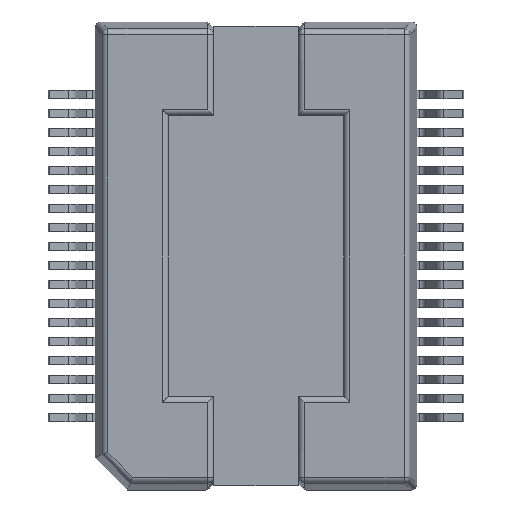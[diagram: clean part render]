
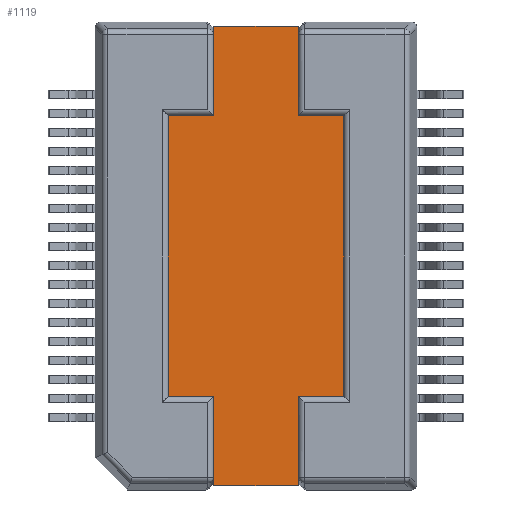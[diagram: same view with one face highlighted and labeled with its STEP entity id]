
A CAD part, front view. The second image highlights one B-rep face of the part: STEP entity #1119.
In plain terms, the highlighted planar face has unit normal (0, -1, 0).
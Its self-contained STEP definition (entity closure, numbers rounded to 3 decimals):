
#38 = VECTOR ( 'NONE', #4517, 1000. ) ;
#255 = CARTESIAN_POINT ( 'NONE',  ( -3., 0., -4.8 ) ) ;
#357 = DIRECTION ( 'NONE',  ( 0., 0., 1. ) ) ;
#792 = ORIENTED_EDGE ( 'NONE', *, *, #9799, .F. ) ;
#1077 = DIRECTION ( 'NONE',  ( 0., 0., -1. ) ) ;
#1119 = ADVANCED_FACE ( 'NONE', ( #9086 ), #13252, .T. ) ;
#1778 = LINE ( 'NONE', #11593, #13732 ) ;
#1919 = VECTOR ( 'NONE', #17169, 1000. ) ;
#1935 = ORIENTED_EDGE ( 'NONE', *, *, #11379, .F. ) ;
#1942 = EDGE_CURVE ( 'NONE', #18266, #15255, #9510, .T. ) ;
#2035 = VECTOR ( 'NONE', #16659, 1000. ) ;
#2729 = VERTEX_POINT ( 'NONE', #16126 ) ;
#3051 = CARTESIAN_POINT ( 'NONE',  ( -1.45, 0., -4.8 ) ) ;
#3450 = LINE ( 'NONE', #6672, #11133 ) ;
#3701 = DIRECTION ( 'NONE',  ( 1., 0., 0. ) ) ;
#3881 = ORIENTED_EDGE ( 'NONE', *, *, #10721, .F. ) ;
#4106 = VECTOR ( 'NONE', #8539, 1000. ) ;
#4233 = DIRECTION ( 'NONE',  ( 1., 0., 0. ) ) ;
#4284 = EDGE_CURVE ( 'NONE', #5393, #18238, #7318, .T. ) ;
#4303 = LINE ( 'NONE', #8319, #15555 ) ;
#4517 = DIRECTION ( 'NONE',  ( -1., 0., 0. ) ) ;
#4860 = DIRECTION ( 'NONE',  ( 0., 0., 1. ) ) ;
#5393 = VERTEX_POINT ( 'NONE', #11458 ) ;
#5692 = LINE ( 'NONE', #19055, #16952 ) ;
#5950 = CARTESIAN_POINT ( 'NONE',  ( 3., 0., -4.8 ) ) ;
#6267 = EDGE_CURVE ( 'NONE', #18238, #18920, #8413, .T. ) ;
#6596 = VERTEX_POINT ( 'NONE', #7203 ) ;
#6672 = CARTESIAN_POINT ( 'NONE',  ( 1.45, 0., 8. ) ) ;
#6688 = VECTOR ( 'NONE', #4233, 1000. ) ;
#6772 = CARTESIAN_POINT ( 'NONE',  ( 3., 0., 4.8 ) ) ;
#6856 = ORIENTED_EDGE ( 'NONE', *, *, #1942, .F. ) ;
#7104 = EDGE_CURVE ( 'NONE', #18920, #6596, #13622, .T. ) ;
#7121 = DIRECTION ( 'NONE',  ( 0., -1., 0. ) ) ;
#7203 = CARTESIAN_POINT ( 'NONE',  ( -3., 0., 4.8 ) ) ;
#7318 = LINE ( 'NONE', #19232, #17862 ) ;
#7325 = CARTESIAN_POINT ( 'NONE',  ( -1.45, 0., -4.8 ) ) ;
#7783 = EDGE_CURVE ( 'NONE', #2729, #5393, #10554, .T. ) ;
#7988 = ORIENTED_EDGE ( 'NONE', *, *, #7104, .F. ) ;
#8319 = CARTESIAN_POINT ( 'NONE',  ( -1.45, 0., 4.8 ) ) ;
#8413 = LINE ( 'NONE', #3051, #38 ) ;
#8539 = DIRECTION ( 'NONE',  ( 0., 0., -1. ) ) ;
#8789 = EDGE_LOOP ( 'NONE', ( #1935, #6856, #12444, #19048, #7988, #14575, #17149, #17140, #16870, #3881, #17756, #792 ) ) ;
#9086 = FACE_OUTER_BOUND ( 'NONE', #8789, .T. ) ;
#9238 = EDGE_CURVE ( 'NONE', #6596, #16359, #18425, .T. ) ;
#9290 = CARTESIAN_POINT ( 'NONE',  ( 1.45, 0., -4.8 ) ) ;
#9430 = CARTESIAN_POINT ( 'NONE',  ( -3., 0., -4.8 ) ) ;
#9510 = LINE ( 'NONE', #10710, #19851 ) ;
#9799 = EDGE_CURVE ( 'NONE', #12318, #10402, #5692, .T. ) ;
#10119 = DIRECTION ( 'NONE',  ( 0., 0., -1. ) ) ;
#10402 = VERTEX_POINT ( 'NONE', #6772 ) ;
#10411 = CARTESIAN_POINT ( 'NONE',  ( -3., 0., 4.8 ) ) ;
#10431 = CARTESIAN_POINT ( 'NONE',  ( 1.45, 0., 4.8 ) ) ;
#10554 = LINE ( 'NONE', #15794, #1919 ) ;
#10710 = CARTESIAN_POINT ( 'NONE',  ( -1.45, 0., 7.85 ) ) ;
#10721 = EDGE_CURVE ( 'NONE', #15020, #17824, #19322, .T. ) ;
#10765 = VECTOR ( 'NONE', #4860, 1000. ) ;
#10770 = DIRECTION ( 'NONE',  ( 1., 0., 0. ) ) ;
#11133 = VECTOR ( 'NONE', #15808, 1000. ) ;
#11379 = EDGE_CURVE ( 'NONE', #15255, #12318, #3450, .T. ) ;
#11458 = CARTESIAN_POINT ( 'NONE',  ( -1.45, 0., -7.85 ) ) ;
#11593 = CARTESIAN_POINT ( 'NONE',  ( 1.45, 0., -4.8 ) ) ;
#12086 = CARTESIAN_POINT ( 'NONE',  ( 3., 0., -4.8 ) ) ;
#12318 = VERTEX_POINT ( 'NONE', #10431 ) ;
#12444 = ORIENTED_EDGE ( 'NONE', *, *, #15274, .F. ) ;
#13105 = DIRECTION ( 'NONE',  ( 0., 0., 1. ) ) ;
#13252 = PLANE ( 'NONE',  #18320 ) ;
#13431 = EDGE_CURVE ( 'NONE', #17824, #2729, #1778, .T. ) ;
#13622 = LINE ( 'NONE', #255, #10765 ) ;
#13732 = VECTOR ( 'NONE', #10119, 1000. ) ;
#14116 = CARTESIAN_POINT ( 'NONE',  ( 1.45, 0., 7.85 ) ) ;
#14402 = EDGE_CURVE ( 'NONE', #10402, #15020, #15365, .T. ) ;
#14461 = CARTESIAN_POINT ( 'NONE',  ( -1.45, 0., 4.8 ) ) ;
#14575 = ORIENTED_EDGE ( 'NONE', *, *, #6267, .F. ) ;
#15020 = VERTEX_POINT ( 'NONE', #12086 ) ;
#15255 = VERTEX_POINT ( 'NONE', #14116 ) ;
#15274 = EDGE_CURVE ( 'NONE', #16359, #18266, #4303, .T. ) ;
#15365 = LINE ( 'NONE', #17720, #4106 ) ;
#15555 = VECTOR ( 'NONE', #357, 1000. ) ;
#15794 = CARTESIAN_POINT ( 'NONE',  ( 1.45, 0., -7.85 ) ) ;
#15808 = DIRECTION ( 'NONE',  ( 0., 0., -1. ) ) ;
#16126 = CARTESIAN_POINT ( 'NONE',  ( 1.45, 0., -7.85 ) ) ;
#16359 = VERTEX_POINT ( 'NONE', #14461 ) ;
#16659 = DIRECTION ( 'NONE',  ( -1., 0., 0. ) ) ;
#16870 = ORIENTED_EDGE ( 'NONE', *, *, #13431, .F. ) ;
#16952 = VECTOR ( 'NONE', #3701, 1000. ) ;
#17140 = ORIENTED_EDGE ( 'NONE', *, *, #7783, .F. ) ;
#17149 = ORIENTED_EDGE ( 'NONE', *, *, #4284, .F. ) ;
#17169 = DIRECTION ( 'NONE',  ( -1., 0., 0. ) ) ;
#17720 = CARTESIAN_POINT ( 'NONE',  ( 3., 0., 4.8 ) ) ;
#17756 = ORIENTED_EDGE ( 'NONE', *, *, #14402, .F. ) ;
#17770 = CARTESIAN_POINT ( 'NONE',  ( 0., 0., 0. ) ) ;
#17824 = VERTEX_POINT ( 'NONE', #9290 ) ;
#17862 = VECTOR ( 'NONE', #13105, 1000. ) ;
#18171 = CARTESIAN_POINT ( 'NONE',  ( -1.45, 0., 7.85 ) ) ;
#18238 = VERTEX_POINT ( 'NONE', #7325 ) ;
#18266 = VERTEX_POINT ( 'NONE', #18171 ) ;
#18320 = AXIS2_PLACEMENT_3D ( 'NONE', #17770, #7121, #1077 ) ;
#18425 = LINE ( 'NONE', #10411, #6688 ) ;
#18920 = VERTEX_POINT ( 'NONE', #9430 ) ;
#19048 = ORIENTED_EDGE ( 'NONE', *, *, #9238, .F. ) ;
#19055 = CARTESIAN_POINT ( 'NONE',  ( 1.45, 0., 4.8 ) ) ;
#19232 = CARTESIAN_POINT ( 'NONE',  ( -1.45, 0., -8. ) ) ;
#19322 = LINE ( 'NONE', #5950, #2035 ) ;
#19851 = VECTOR ( 'NONE', #10770, 1000. ) ;
